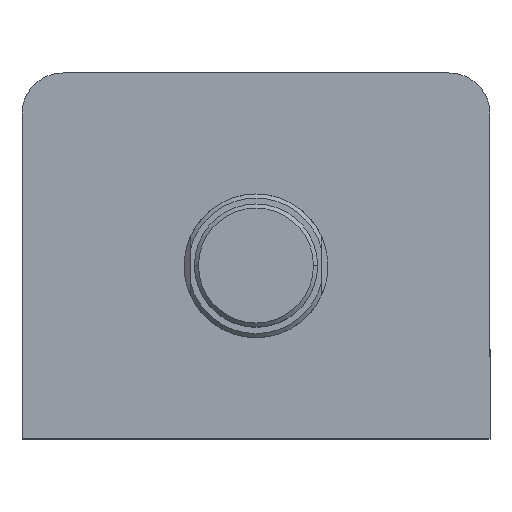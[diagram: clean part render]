
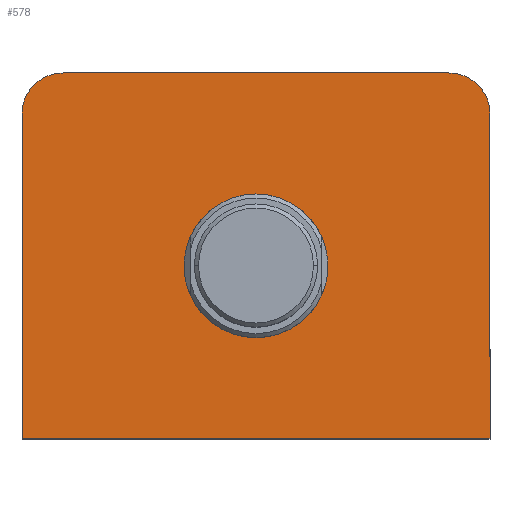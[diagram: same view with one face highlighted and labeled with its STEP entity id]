
A CAD part, top view. The second image highlights one B-rep face of the part: STEP entity #578.
In plain terms, the highlighted planar face has unit normal (0, 0, 1).
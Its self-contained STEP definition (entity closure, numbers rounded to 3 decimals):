
#62 = CARTESIAN_POINT ( 'NONE',  ( -57., 44.5, 97. ) ) ;
#64 = DIRECTION ( 'NONE',  ( -1., 0., 0. ) ) ;
#160 = CIRCLE ( 'NONE', #3043, 17.5 ) ;
#415 = LINE ( 'NONE', #818, #418 ) ;
#418 = VECTOR ( 'NONE', #819, 1000. ) ;
#425 = CIRCLE ( 'NONE', #3006, 10. ) ;
#439 = CIRCLE ( 'NONE', #3010, 17.5 ) ;
#499 = LINE ( 'NONE', #2408, #502 ) ;
#502 = VECTOR ( 'NONE', #2409, 1000. ) ;
#528 = CIRCLE ( 'NONE', #3036, 10. ) ;
#578 = ADVANCED_FACE ( 'NONE', ( #1079, #1084 ), #2048, .T. ) ;
#740 = VERTEX_POINT ( 'NONE', #1593 ) ;
#741 = VERTEX_POINT ( 'NONE', #1596 ) ;
#742 = VERTEX_POINT ( 'NONE', #1594 ) ;
#746 = VERTEX_POINT ( 'NONE', #1599 ) ;
#750 = EDGE_LOOP ( 'NONE', ( #3158, #2498, #3139, #3157, #3153, #3163 ) ) ;
#818 = CARTESIAN_POINT ( 'NONE',  ( 57., 44.5, 97. ) ) ;
#819 = DIRECTION ( 'NONE',  ( 0., 1., 0. ) ) ;
#846 = EDGE_CURVE ( 'NONE', #1066, #1069, #1849, .T. ) ;
#903 = EDGE_CURVE ( 'NONE', #740, #746, #2159, .T. ) ;
#971 = CARTESIAN_POINT ( 'NONE',  ( -57., -44.5, 97. ) ) ;
#973 = DIRECTION ( 'NONE',  ( 1., 0., 0. ) ) ;
#1048 = VERTEX_POINT ( 'NONE', #1785 ) ;
#1066 = VERTEX_POINT ( 'NONE', #1799 ) ;
#1069 = VERTEX_POINT ( 'NONE', #1802 ) ;
#1079 = FACE_BOUND ( 'NONE', #2869, .T. ) ;
#1084 = FACE_OUTER_BOUND ( 'NONE', #750, .T. ) ;
#1177 = VERTEX_POINT ( 'NONE', #2259 ) ;
#1248 = EDGE_CURVE ( 'NONE', #746, #1048, #415, .T. ) ;
#1256 = EDGE_CURVE ( 'NONE', #1048, #1066, #425, .T. ) ;
#1420 = CARTESIAN_POINT ( 'NONE',  ( -47., 34.5, 97. ) ) ;
#1421 = DIRECTION ( 'NONE',  ( 0., 0., 1. ) ) ;
#1422 = DIRECTION ( 'NONE',  ( 1., 0., 0. ) ) ;
#1465 = CARTESIAN_POINT ( 'NONE',  ( 0., -2.5, 97. ) ) ;
#1466 = DIRECTION ( 'NONE',  ( 0., 0., 1. ) ) ;
#1467 = DIRECTION ( 'NONE',  ( 1., 0., 0. ) ) ;
#1593 = CARTESIAN_POINT ( 'NONE',  ( -57., -44.5, 97. ) ) ;
#1594 = CARTESIAN_POINT ( 'NONE',  ( 17.5, -2.5, 97. ) ) ;
#1596 = CARTESIAN_POINT ( 'NONE',  ( -17.5, -2.5, 97. ) ) ;
#1599 = CARTESIAN_POINT ( 'NONE',  ( 57., -44.5, 97. ) ) ;
#1785 = CARTESIAN_POINT ( 'NONE',  ( 57., 34.5, 97. ) ) ;
#1799 = CARTESIAN_POINT ( 'NONE',  ( 47., 44.5, 97. ) ) ;
#1802 = CARTESIAN_POINT ( 'NONE',  ( -47., 44.5, 97. ) ) ;
#1849 = LINE ( 'NONE', #62, #1860 ) ;
#1860 = VECTOR ( 'NONE', #64, 1000. ) ;
#2048 = PLANE ( 'NONE',  #2924 ) ;
#2074 = EDGE_CURVE ( 'NONE', #742, #741, #439, .T. ) ;
#2159 = LINE ( 'NONE', #971, #2162 ) ;
#2162 = VECTOR ( 'NONE', #973, 1000. ) ;
#2188 = EDGE_CURVE ( 'NONE', #1177, #740, #499, .T. ) ;
#2204 = EDGE_CURVE ( 'NONE', #1069, #1177, #528, .T. ) ;
#2259 = CARTESIAN_POINT ( 'NONE',  ( -57., 34.5, 97. ) ) ;
#2408 = CARTESIAN_POINT ( 'NONE',  ( -57., 44.5, 97. ) ) ;
#2409 = DIRECTION ( 'NONE',  ( 0., -1., 0. ) ) ;
#2498 = ORIENTED_EDGE ( 'NONE', *, *, #2204, .T. ) ;
#2503 = ORIENTED_EDGE ( 'NONE', *, *, #2882, .F. ) ;
#2561 = CARTESIAN_POINT ( 'NONE',  ( 0., 0., 97. ) ) ;
#2635 = CARTESIAN_POINT ( 'NONE',  ( 47., 34.5, 97. ) ) ;
#2636 = DIRECTION ( 'NONE',  ( 0., 0., 1. ) ) ;
#2637 = DIRECTION ( 'NONE',  ( 1., 0., 0. ) ) ;
#2658 = CARTESIAN_POINT ( 'NONE',  ( 0., -2.5, 97. ) ) ;
#2659 = DIRECTION ( 'NONE',  ( 0., 0., 1. ) ) ;
#2660 = DIRECTION ( 'NONE',  ( 1., 0., 0. ) ) ;
#2712 = DIRECTION ( 'NONE',  ( 0., 0., 1. ) ) ;
#2713 = DIRECTION ( 'NONE',  ( 1., 0., 0. ) ) ;
#2869 = EDGE_LOOP ( 'NONE', ( #3154, #2503 ) ) ;
#2882 = EDGE_CURVE ( 'NONE', #741, #742, #160, .T. ) ;
#2924 = AXIS2_PLACEMENT_3D ( 'NONE', #2561, #2712, #2713 ) ;
#3006 = AXIS2_PLACEMENT_3D ( 'NONE', #2635, #2636, #2637 ) ;
#3010 = AXIS2_PLACEMENT_3D ( 'NONE', #2658, #2659, #2660 ) ;
#3036 = AXIS2_PLACEMENT_3D ( 'NONE', #1420, #1421, #1422 ) ;
#3043 = AXIS2_PLACEMENT_3D ( 'NONE', #1465, #1466, #1467 ) ;
#3139 = ORIENTED_EDGE ( 'NONE', *, *, #2188, .T. ) ;
#3153 = ORIENTED_EDGE ( 'NONE', *, *, #1248, .T. ) ;
#3154 = ORIENTED_EDGE ( 'NONE', *, *, #2074, .F. ) ;
#3157 = ORIENTED_EDGE ( 'NONE', *, *, #903, .T. ) ;
#3158 = ORIENTED_EDGE ( 'NONE', *, *, #846, .T. ) ;
#3163 = ORIENTED_EDGE ( 'NONE', *, *, #1256, .T. ) ;
